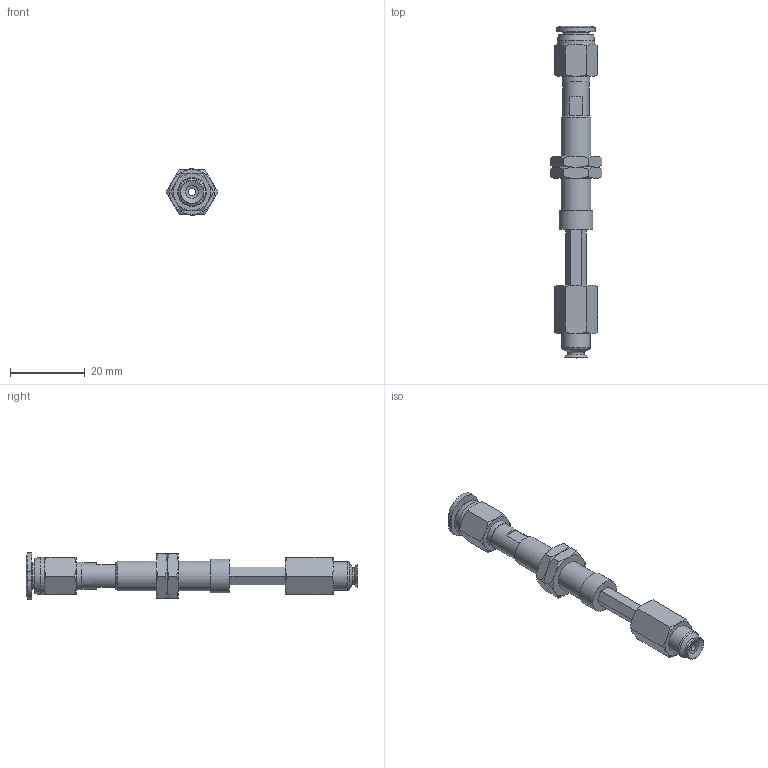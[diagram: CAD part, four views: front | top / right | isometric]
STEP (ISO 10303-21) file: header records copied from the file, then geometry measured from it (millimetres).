
FILE_DESCRIPTION(('STEP AP203'),'1');
FILE_NAME('-O.stp','2025-08-27T02:58:13',(' '),(' '),'Spatial InterOp 3D',' ',' ');
FILE_SCHEMA(('CONFIG_CONTROL_DESIGN'));
Length unit declared in the file: millimetre
Products named in the file (7): BNABPFTH-6A-15-※-O; ADAPTER; NAPATH-10A-15--M; Nut-6A-15-h; NAPFTH-6A-15-FBODY; BPFG-6A-※; PC-C_06-M5
Assembly tree (7 placements, depth 2):
  BNABPFTH-6A-15-※-O
    ADAPTER
    NAPATH-10A-15--M
    Nut-6A-15-h  x2
    NAPFTH-6A-15-FBODY
    BPFG-6A-※
    PC-C_06-M5
Bounding box: 13.86 x 88.98 x 12.4 mm (x, y, z)
Volume: 3800.4 mm3; surface area: 5667.2 mm2
Topology: 6 solids, 9 shells, 173 faces, 366 edges, 222 vertices
Faces by surface type: plane 69, cone 62, cylinder 23, torus 11, bspline 5, revolution 3
Full cylindrical faces by diameter (mm): 2 x3, 4 x4, 4.134 x1, 5 x1, 6 x2, 7 x2, 7.188 x2, 7.4 x1, 7.7 x1, 8 x1, 8.2 x1, 9 x1, 10 x1
Entity records: 4495 total; most frequent: CARTESIAN_POINT 1268, DIRECTION 593, ORIENTED_EDGE 520, EDGE_CURVE 262, AXIS2_PLACEMENT_3D 257, EDGE_LOOP 220, VERTEX_POINT 184, FACE_OUTER_BOUND 122
